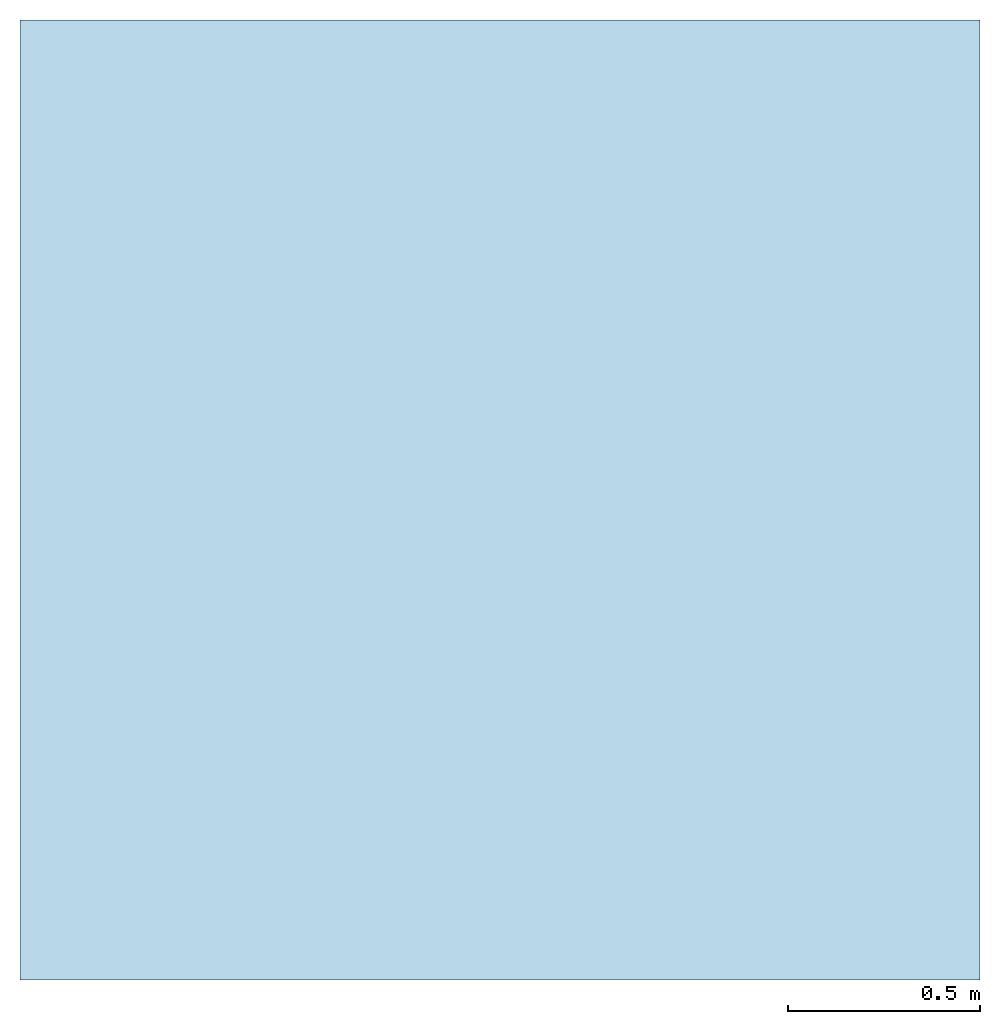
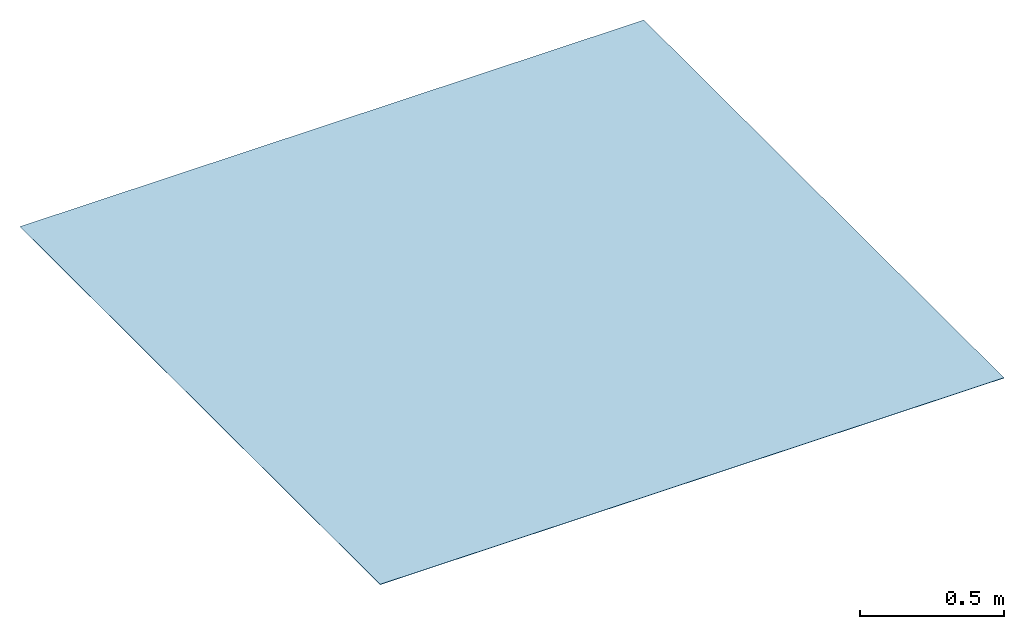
# Not in any storey: 1 slab.
"""IFC2X3 building model written with IfcOpenShell, lengths in millimetres."""

import ifcopenshell
import ifcopenshell.guid

model = None  # the IFC model being written
_history = None  # IfcOwnerHistory: only IFC2X3 demands one
_inside = {}  # id of a spatial element -> (the spatial element, [elements in it])
_under = {}  # id of a project, library or spatial element -> (it, [spatial elements below it])
_declared = {}  # id of a project -> (the project, [libraries it declares])
_typed = {}  # id of a type object -> (the type object, [elements of that type])
_made_of = {}  # id of a material, layer set ... -> (it, [elements and type objects made of it])


def new_model(schema):
    """Start an empty IFC model of exactly this schema.

    Asked for "IFC4X3", IfcOpenShell would pick the latest addendum, in which some entities
    have other attributes; the version numbers below select the first issue.
    IFC2X3 requires an IfcOwnerHistory on every rooted entity: one is made here for all.
    """
    global model, _history
    if schema == "IFC4X3":
        model = ifcopenshell.file(schema_version=(4, 3, 0, 0))
    else:
        model = ifcopenshell.file(schema=schema)
    _inside.clear()
    _under.clear()
    _declared.clear()
    _typed.clear()
    _made_of.clear()
    _history = None
    if model.schema == "IFC2X3":
        org = make("IfcOrganization", Name="unknown")
        user = make(
            "IfcPersonAndOrganization",
            ThePerson=make("IfcPerson", FamilyName="unknown"),
            TheOrganization=org,
        )
        app = make(
            "IfcApplication",
            ApplicationDeveloper=org,
            Version="unknown",
            ApplicationFullName="unknown",
            ApplicationIdentifier="unknown",
        )
        _history = make(
            "IfcOwnerHistory",
            OwningUser=user,
            OwningApplication=app,
            ChangeAction="ADDED",
            CreationDate=0,
        )
    return model


def make(cls, **values):
    """One entity of the class cls with the attributes given. An attribute that is None is left unset."""
    return model.create_entity(
        cls, **{name: value for name, value in values.items() if value is not None}
    )


def rooted(cls, **values):
    """An entity with a GlobalId (a new one), such as an element, a storey or a relation."""
    return make(cls, GlobalId=ifcopenshell.guid.new(), OwnerHistory=_history, **values)


def si_unit(unit_type, name, prefix=None):
    """IfcSIUnit, for example si_unit("LENGTHUNIT", "METRE", prefix="MILLI")."""
    return make("IfcSIUnit", UnitType=unit_type, Prefix=prefix, Name=name)


def assignment(units):
    """IfcUnitAssignment: the units of a project."""
    return None if units is None else make("IfcUnitAssignment", Units=units)


def point(xyz):
    """IfcCartesianPoint."""
    return None if xyz is None else make("IfcCartesianPoint", Coordinates=xyz)


def direction(xyz):
    """IfcDirection."""
    return None if xyz is None else make("IfcDirection", DirectionRatios=xyz)


def frame(location, z_axis=None, x_axis=None):
    """IfcAxis2Placement3D, a coordinate frame: its origin and axes. An axis left out is left unset."""
    return make(
        "IfcAxis2Placement3D",
        Location=point(location),
        Axis=direction(z_axis),
        RefDirection=direction(x_axis),
    )


def frame_2d(location, x_axis=None):
    """IfcAxis2Placement2D, a coordinate frame in the plane: its origin and x axis."""
    return make(
        "IfcAxis2Placement2D", Location=point(location), RefDirection=direction(x_axis)
    )


def origin():
    """The frame at (0, 0, 0) with its axes left unset."""
    return frame((0.0, 0.0, 0.0))


def origin_with_axes():
    """The frame at (0, 0, 0) with the z axis (0, 0, 1) and the x axis (1, 0, 0) written out."""
    return frame((0.0, 0.0, 0.0), z_axis=(0.0, 0.0, 1.0), x_axis=(1.0, 0.0, 0.0))


def origin_2d():
    """The frame at (0, 0) in the plane with its x axis left unset."""
    return frame_2d((0.0, 0.0))


def place(relative_to, where):
    """IfcLocalPlacement: puts the frame where relative to a parent placement (None: the world)."""
    return make(
        "IfcLocalPlacement", PlacementRelTo=relative_to, RelativePlacement=where
    )


def context(
    kind, dimensions, precision=None, world=None, true_north=None, identifier=None
):
    """IfcGeometricRepresentationContext, for example the 3D "Model" context."""
    return make(
        "IfcGeometricRepresentationContext",
        ContextIdentifier=identifier,
        ContextType=kind,
        CoordinateSpaceDimension=dimensions,
        Precision=precision,
        WorldCoordinateSystem=world,
        TrueNorth=true_north,
    )


def project(units=None, contexts=None):
    """IfcProject with its units and contexts."""
    return rooted(
        "IfcProject",
        Name="project",
        RepresentationContexts=contexts,
        UnitsInContext=assignment(units),
    )


def spatial(cls, under=None, at=None, **own):
    """A site, building, storey or space (cls), placed at a placement, below another one or the project."""
    s = rooted(cls, ObjectPlacement=at, **own)
    if under is not None:
        _under.setdefault(under.id(), (under, []))[1].append(s)
    return s


def profile(cls, at=None, kind="AREA", **sizes):
    """A parametric profile (cls). Its sizes go by their IFC names, for example OverallWidth=200.0."""
    return make(cls, ProfileType=kind, Position=at, **sizes)


def rectangle(**sizes):
    """IfcRectangleProfileDef."""
    return profile("IfcRectangleProfileDef", **sizes)


def extrude(swept, where, along, depth):
    """IfcExtrudedAreaSolid: the profile swept, set in the frame where, extruded along a direction by depth."""
    return make(
        "IfcExtrudedAreaSolid",
        SweptArea=swept,
        Position=where,
        ExtrudedDirection=direction(along),
        Depth=depth,
    )


def shape(context_of_items, identifier, shape_type, items):
    """IfcShapeRepresentation: the items that make up one representation, for example the "Body"."""
    return make(
        "IfcShapeRepresentation",
        ContextOfItems=context_of_items,
        RepresentationIdentifier=identifier,
        RepresentationType=shape_type,
        Items=items,
    )


def material(Name=None, Category=None):
    """IfcMaterial."""
    return make("IfcMaterial", Name=Name, Category=Category)


def layer(
    of_material, thickness, ventilated=None, Name=None, Category=None, Priority=None
):
    """IfcMaterialLayer: one layer of a wall or slab, of a material (None: an air gap)."""
    return make(
        "IfcMaterialLayer",
        Material=of_material,
        LayerThickness=thickness,
        IsVentilated=ventilated,
        Name=Name,
        Category=Category,
        Priority=Priority,
    )


def layer_set(layers, Name=None):
    """IfcMaterialLayerSet."""
    return make("IfcMaterialLayerSet", MaterialLayers=layers, LayerSetName=Name)


def layer_usage(for_layer_set, set_direction, sense, offset, extent=None):
    """IfcMaterialLayerSetUsage: how a layer set lies in its element."""
    return make(
        "IfcMaterialLayerSetUsage",
        ForLayerSet=for_layer_set,
        LayerSetDirection=set_direction,
        DirectionSense=sense,
        OffsetFromReferenceLine=offset,
        ReferenceExtent=extent,
    )


def made_of(thing, what):
    """Note that an element or type object is made of a material, layer set ...; save() writes the relation."""
    if what is not None:
        _made_of.setdefault(what.id(), (what, []))[1].append(thing)
    return thing


def type_object(cls, material=None, **own):
    """A type object (cls), such as IfcWallType, which elements share."""
    return made_of(rooted(cls, **own), material)


def element(
    cls,
    number,
    at=None,
    inside=None,
    cuts=None,
    type_object=None,
    material=None,
    context=None,
    identifier="Body",
    shape_type=None,
    held_by="IfcProductDefinitionShape",
    body=None,
    shapes=None,
    **own,
):
    """One element of the class cls, such as IfcWall. Its Tag is "e" and its number.

    at: its placement. inside: the storey or other place that contains it. cuts: it is an
    opening in that element (IfcRelVoidsElement). A single representation is given by context,
    identifier, shape_type and body (its items); several are given by shapes. held_by: the class
    of the entity that holds the representations. save() writes the other relations.
    """
    e = rooted(cls, Tag="e%d" % number, ObjectPlacement=at, **own)
    if body is not None:
        shapes = [shape(context, identifier, shape_type, body)]
    if shapes is not None:
        e.Representation = make(held_by, Representations=shapes)
    if inside is not None:
        _inside.setdefault(inside.id(), (inside, []))[1].append(e)
    if cuts is not None:
        rooted(
            "IfcRelVoidsElement", RelatingBuildingElement=cuts, RelatedOpeningElement=e
        )
    if type_object is not None:
        _typed.setdefault(type_object.id(), (type_object, []))[1].append(e)
    return made_of(e, material)


def aggregate(whole, parts):
    """IfcRelAggregates: a whole, such as a stair, and the parts it consists of."""
    return rooted("IfcRelAggregates", RelatingObject=whole, RelatedObjects=parts)


def save(model, path):
    """Write the relations noted so far, then the file.

    IfcRelAggregates (storeys below a building ...), IfcRelContainedInSpatialStructure (elements
    in a storey), IfcRelDefinesByType, IfcRelAssociatesMaterial and IfcRelDeclares: one each for
    every whole, place, type object, material and project.
    """
    for whole, parts in _under.values():
        aggregate(whole, parts)
    for where, things in _inside.values():
        rooted(
            "IfcRelContainedInSpatialStructure",
            RelatedElements=things,
            RelatingStructure=where,
        )
    for kind, things in _typed.values():
        rooted("IfcRelDefinesByType", RelatedObjects=things, RelatingType=kind)
    for what, things in _made_of.values():
        rooted("IfcRelAssociatesMaterial", RelatedObjects=things, RelatingMaterial=what)
    for by, libraries in _declared.values():
        rooted("IfcRelDeclares", RelatingContext=by, RelatedDefinitions=libraries)
    model.write(path)


model = new_model("IFC2X3")

# Units and contexts
model_context = context("Model", 3, precision=1e-05, world=origin())
plan_context = context("Plan", 2, precision=1e-05, world=origin_2d())
ifc_project = project(units=[si_unit("LENGTHUNIT", "METRE", prefix="MILLI"), si_unit("AREAUNIT", "SQUARE_METRE"), si_unit("VOLUMEUNIT", "CUBIC_METRE"), si_unit("SOLIDANGLEUNIT", "STERADIAN"), si_unit("PLANEANGLEUNIT", "RADIAN"), si_unit("MASSUNIT", "GRAM"), si_unit("TIMEUNIT", "SECOND"), si_unit("THERMODYNAMICTEMPERATUREUNIT", "DEGREE_CELSIUS"), si_unit("LUMINOUSINTENSITYUNIT", "LUMEN")], contexts=[model_context, plan_context])

# Site, building
site_placement = place(None, frame((0.0, 0.0, 0.0), z_axis=(0.0, 1.0, 0.0), x_axis=(0.0, 0.0, 1.0)))
site = spatial("IfcSite", under=ifc_project, at=site_placement, Name="Default site", CompositionType="ELEMENT")
building_placement = place(site_placement, frame((0.0, 0.0, 0.0), z_axis=(0.0, 1.0, 0.0), x_axis=(0.0, 0.0, 1.0)))
building = spatial("IfcBuilding", under=site, at=building_placement, Name="Default building", CompositionType="ELEMENT")

# Slab
ifc_material = material(Name="NBS_DeltaMembranes_PlasticsSheets_DELTA-GasBarrierSystem")
ifc_layer = layer(ifc_material, 1.6, ventilated=False)
ifc_layer_set = layer_set([ifc_layer], Name="NBS_DeltaMembranes_PlasticsSheets_DELTA-GasBarrierSystem")
ifc_layer_usage = layer_usage(ifc_layer_set, "AXIS3", "NEGATIVE", 0.0)
slab_type = type_object("IfcSlabType", Name="NBS_DeltaMembranes_PlasticsSheets_DELTA-GasBarrierSystem", PredefinedType="ROOF", material=ifc_layer_set)
slab_placement = place(None, origin())
element("IfcSlab", 1, at=slab_placement, inside=building, type_object=slab_type, material=ifc_layer_usage, Name="NBS_DeltaMembranes_PlasticsSheets_DELTA-GasBarrierSystem", PredefinedType="ROOF", context=model_context, shape_type="SweptSolid", body=[
    extrude(rectangle(XDim=2500.0, YDim=2500.0, at=frame_2d((1250.0, 1250.0))), origin_with_axes(), (0.0, 0.0, 1.0), 1.6),
])

save(model, "model.ifc")
